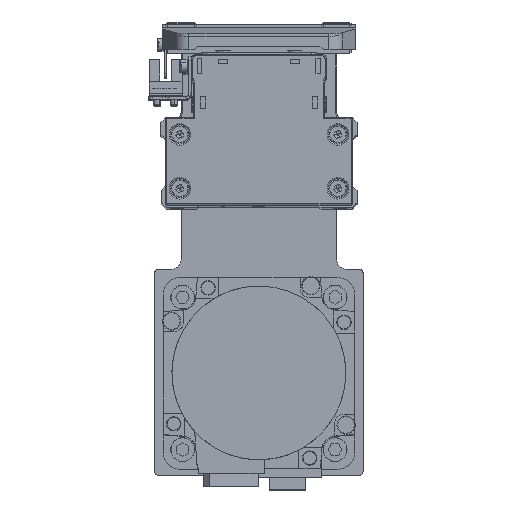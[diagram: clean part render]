
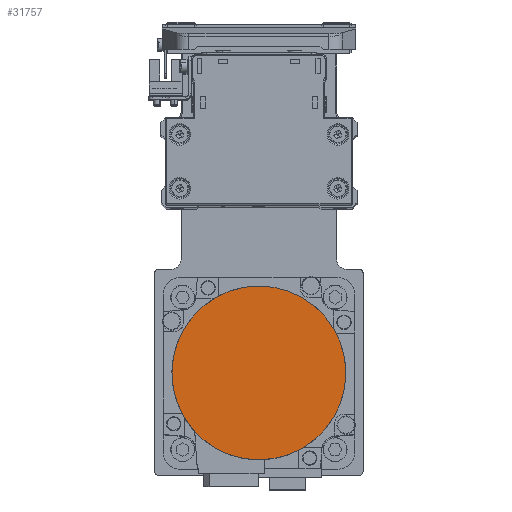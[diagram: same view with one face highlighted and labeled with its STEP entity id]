
A CAD part, top view. The second image highlights one B-rep face of the part: STEP entity #31757.
In plain terms, the highlighted planar face has unit normal (0, 0, 1) as drawn and (0, 0, -1) by its records, which use the part's own axes.
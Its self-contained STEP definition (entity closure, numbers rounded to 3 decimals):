
#1293 = ORIENTED_EDGE ( 'NONE', *, *, #16868, .F. ) ;
#2742 = CIRCLE ( 'NONE', #24913, 36.3 ) ;
#5696 = CARTESIAN_POINT ( 'NONE',  ( 0., 0., -122.2 ) ) ;
#6432 = CARTESIAN_POINT ( 'NONE',  ( 0., 0., -122.2 ) ) ;
#12398 = CARTESIAN_POINT ( 'NONE',  ( 0., 0., -122.2 ) ) ;
#15324 = AXIS2_PLACEMENT_3D ( 'NONE', #6432, #18527, #30629 ) ;
#16868 = EDGE_CURVE ( 'NONE', #36374, #18320, #32394, .T. ) ;
#17802 = DIRECTION ( 'NONE',  ( 0., 0., 1. ) ) ;
#18320 = VERTEX_POINT ( 'NONE', #37051 ) ;
#18527 = DIRECTION ( 'NONE',  ( 0., 0., 1. ) ) ;
#20761 = FACE_OUTER_BOUND ( 'NONE', #38606, .T. ) ;
#24496 = DIRECTION ( 'NONE',  ( 0., 0., 1. ) ) ;
#24913 = AXIS2_PLACEMENT_3D ( 'NONE', #12398, #24496, #36588 ) ;
#27168 = CARTESIAN_POINT ( 'NONE',  ( 0., 36.3, -122.2 ) ) ;
#29887 = DIRECTION ( 'NONE',  ( 1., 0., 0. ) ) ;
#30629 = DIRECTION ( 'NONE',  ( 0., 1., 0. ) ) ;
#31757 = ADVANCED_FACE ( 'NONE', ( #20761 ), #32861, .F. ) ;
#32394 = CIRCLE ( 'NONE', #15324, 36.3 ) ;
#32861 = PLANE ( 'NONE',  #37919 ) ;
#36066 = ORIENTED_EDGE ( 'NONE', *, *, #38787, .F. ) ;
#36374 = VERTEX_POINT ( 'NONE', #27168 ) ;
#36588 = DIRECTION ( 'NONE',  ( 0., -1., 0. ) ) ;
#37051 = CARTESIAN_POINT ( 'NONE',  ( 0., -36.3, -122.2 ) ) ;
#37919 = AXIS2_PLACEMENT_3D ( 'NONE', #5696, #17802, #29887 ) ;
#38606 = EDGE_LOOP ( 'NONE', ( #1293, #36066 ) ) ;
#38787 = EDGE_CURVE ( 'NONE', #18320, #36374, #2742, .T. ) ;
